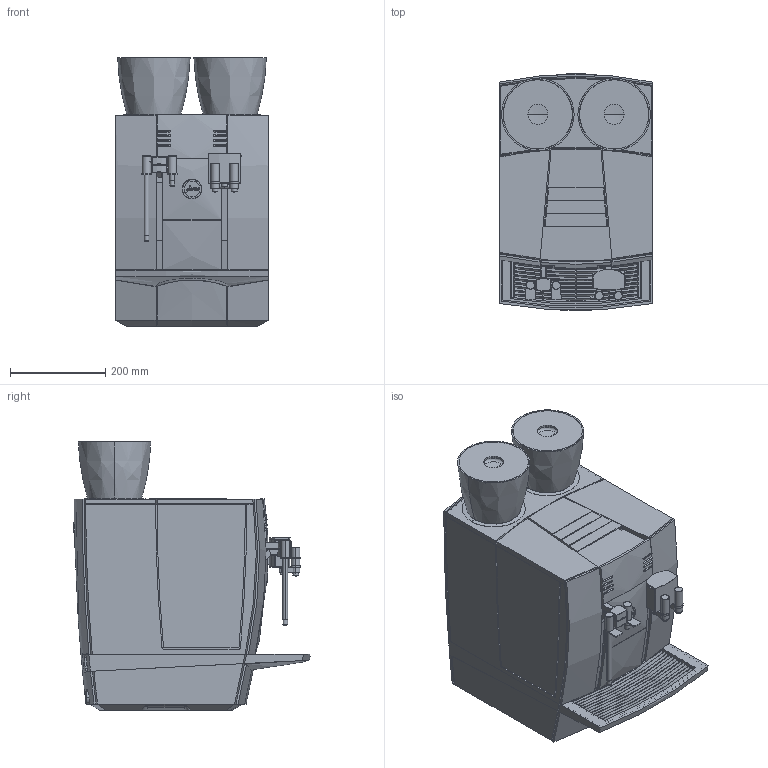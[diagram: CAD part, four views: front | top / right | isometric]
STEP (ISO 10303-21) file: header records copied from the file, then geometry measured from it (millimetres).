
FILE_DESCRIPTION(/* description */ (''),/* implementation_level */ '2;1');
FILE_NAME(/* name */ 'GIGA_X9c_Professional_Design.stp',/* time_stamp */ '2012-11-29T15:32:20+01:00',/* author */ (''),/* organization */ (''),/* preprocessor_version */ 'ST-DEVELOPER v11',/* originating_system */ 'SIEMENS UGS NX 6.0',/* authorisation */ '');
FILE_SCHEMA (('AUTOMOTIVE_DESIGN { 1 0 10303 214 1 1 1 1 }'));
Products named in the file (1): GIGA_X9c_Professional_Design
Bounding box: 320 x 495.48 x 562.5 mm (x, y, z)
Volume: 51757897.3 mm3; surface area: 3005384.7 mm2
Topology: 89 solids, 91 shells, 1608 faces, 4442 edges, 2925 vertices
Faces by surface type: plane 544, cylinder 380, bspline 358, torus 108, revolution 99, cone 65, sphere 54
Full cylindrical faces by diameter (mm): 2.4 x2, 3.3 x2, 6 x2, 6.2 x4, 10 x2, 10.3 x1, 10.8 x2, 11.6 x2, 15 x1, 26 x1, 27.5 x1, 39 x2, 39.5 x2, 41 x2, 41.5 x2, 132.5 x2
Entity records: 74257 total; most frequent: CARTESIAN_POINT 37572, ORIENTED_EDGE 8650, DIRECTION 6102, EDGE_CURVE 4325, VERTEX_POINT 2897, AXIS2_PLACEMENT_3D 2340, EDGE_LOOP 1724, ADVANCED_FACE 1602
